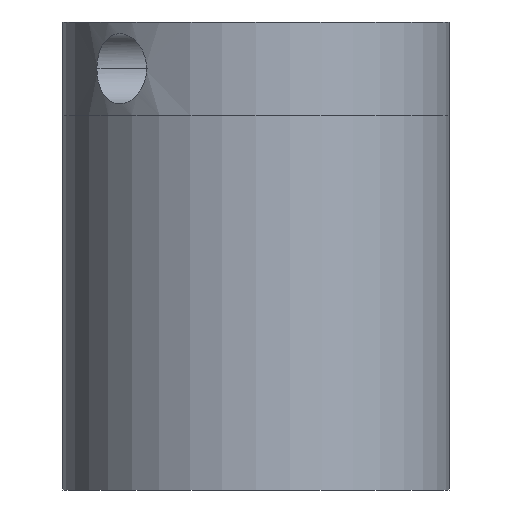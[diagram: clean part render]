
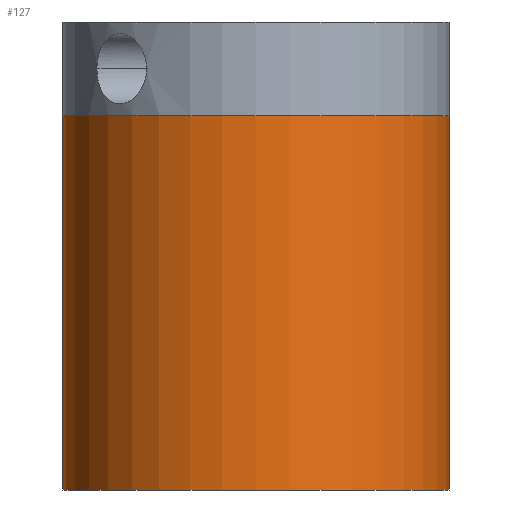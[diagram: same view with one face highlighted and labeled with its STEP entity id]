
A CAD part, front view. The second image highlights one B-rep face of the part: STEP entity #127.
In plain terms, the highlighted cylindrical face has radius 16.5 mm (diameter 33 mm), a partial arc.
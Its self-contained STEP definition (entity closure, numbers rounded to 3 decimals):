
#127=ADVANCED_FACE('',(#161),#147,.T.);
#147=CYLINDRICAL_SURFACE('',#416,16.5);
#161=FACE_OUTER_BOUND('',#173,.T.);
#173=EDGE_LOOP('',(#221,#222,#223,#224));
#201=CIRCLE('',#414,16.5);
#202=CIRCLE('',#415,16.5);
#221=ORIENTED_EDGE('',*,*,#337,.T.);
#222=ORIENTED_EDGE('',*,*,#338,.F.);
#223=ORIENTED_EDGE('',*,*,#339,.F.);
#224=ORIENTED_EDGE('',*,*,#340,.T.);
#309=VERTEX_POINT('',#554);
#310=VERTEX_POINT('',#555);
#311=VERTEX_POINT('',#557);
#312=VERTEX_POINT('',#559);
#337=EDGE_CURVE('',#309,#310,#381,.T.);
#338=EDGE_CURVE('',#311,#310,#201,.T.);
#339=EDGE_CURVE('',#312,#311,#382,.T.);
#340=EDGE_CURVE('',#312,#309,#202,.T.);
#381=LINE('',#553,#397);
#382=LINE('',#558,#398);
#397=VECTOR('',#456,1.);
#398=VECTOR('',#459,1.);
#414=AXIS2_PLACEMENT_3D('',#556,#457,#458);
#415=AXIS2_PLACEMENT_3D('',#560,#460,#461);
#416=AXIS2_PLACEMENT_3D('',#561,#462,#463);
#456=DIRECTION('',(0.,0.,-1.));
#457=DIRECTION('',(0.,0.,-1.));
#458=DIRECTION('',(0.,1.,0.));
#459=DIRECTION('',(0.,0.,-1.));
#460=DIRECTION('',(0.,0.,-1.));
#461=DIRECTION('',(0.,1.,0.));
#462=DIRECTION('',(0.,0.,-1.));
#463=DIRECTION('',(0.,-1.,0.));
#553=CARTESIAN_POINT('',(-16.5,0.,0.));
#554=CARTESIAN_POINT('',(-16.5,0.,32.));
#555=CARTESIAN_POINT('',(-16.5,0.,0.));
#556=CARTESIAN_POINT('',(0.,0.,0.));
#557=CARTESIAN_POINT('',(16.5,0.,0.));
#558=CARTESIAN_POINT('',(16.5,0.,0.));
#559=CARTESIAN_POINT('',(16.5,0.,32.));
#560=CARTESIAN_POINT('',(0.,0.,32.));
#561=CARTESIAN_POINT('',(0.,0.,32.));
